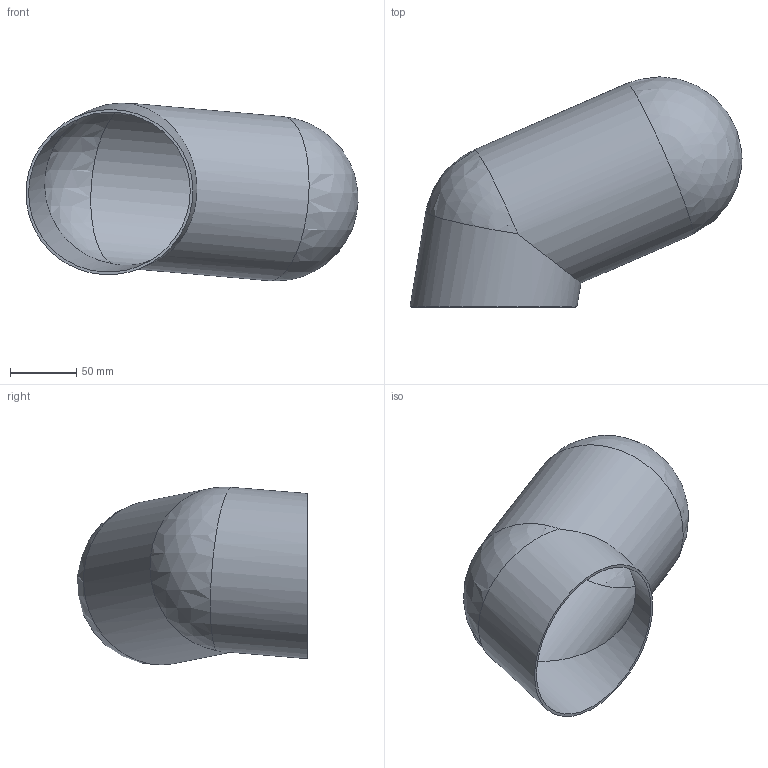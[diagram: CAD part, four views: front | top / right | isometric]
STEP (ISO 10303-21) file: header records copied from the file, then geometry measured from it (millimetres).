
FILE_DESCRIPTION(('Open CASCADE Model'),'2;1');
FILE_NAME('Open CASCADE Shape Model','2026-11-10T19:16:44',('Author'),( 'Open CASCADE'),'Open CASCADE STEP processor 8.0','Open CASCADE 8.0' ,'Unknown');
FILE_SCHEMA(('AUTOMOTIVE_DESIGN { 1 0 10303 214 1 1 1 1 }'));
Length unit declared in the file: millimetre
Products named in the file (1): Open CASCADE STEP translator 8.0 4
Bounding box: 250.01 x 173.3 x 134 mm (x, y, z)
Volume: 189708.7 mm3; surface area: 190496.8 mm2
Topology: 1 solids, 1 shells, 9 faces, 30 edges, 20 vertices
Faces by surface type: sphere 4, cylinder 4, plane 1
Full cylindrical faces by diameter (mm): 120 x2, 124 x2
Entity records: 2241 total; most frequent: CARTESIAN_POINT 1719, DIRECTION 98, ORIENTED_EDGE 52, PCURVE 52, DEFINITIONAL_REPRESENTATION 52, AXIS2_PLACEMENT_3D 32, LINE 32, VECTOR 32
